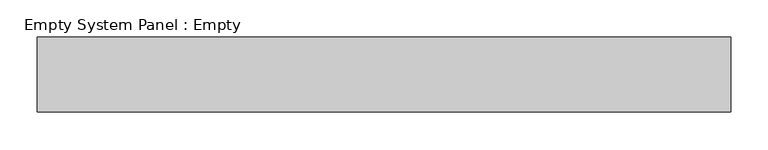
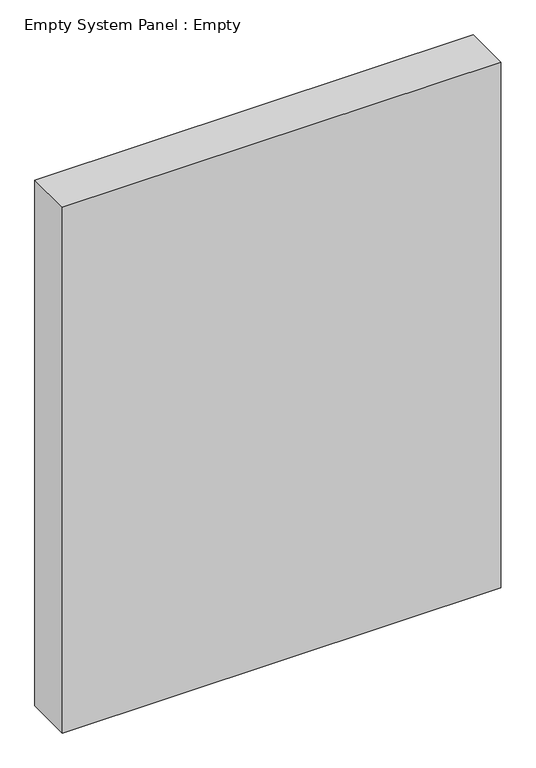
"""IFC4 building model written with IfcOpenShell, lengths in millimetres: plate geometry, Empty System Panel : Empty."""

from ifc_helpers import new_model, si_unit, origin, origin_with_axes, place, context, project, spatial, polyline, outline, extrude, source, transform, mapped, element, save


def empty_system_panel_empty_1ef4080b(model_context):
    return source(origin(), model_context, "Body", "SweptSolid", [
        extrude(outline(polyline([(462.5, -50.0), (-462.5, -50.0), (-462.5, 50.0), (462.5, 50.0), (462.5, -50.0)])), origin_with_axes(), (0.0, 0.0, 1.0), 1172.5),
    ])


if __name__ == "__main__":
    model = new_model("IFC4")
    model_context = context("Model", 3, world=origin())
    ifc_project = project(units=[si_unit("LENGTHUNIT", "METRE", prefix="MILLI")], contexts=[model_context])
    site = spatial("IfcSite", under=ifc_project)
    building = spatial("IfcBuilding", under=site)
    placement = place(None, origin())
    empty_system_panel_empty_shape = empty_system_panel_empty_1ef4080b(model_context)
    element("IfcPlate", 1, ObjectType="Empty System Panel : Empty", at=placement, inside=building, context=model_context, shape_type="MappedRepresentation", body=[
        mapped(empty_system_panel_empty_shape, transform((0.0, 0.0, 0.0), x_axis=(1.0, 0.0, 0.0), y_axis=(0.0, 1.0, 0.0), z_axis=(0.0, 0.0, 1.0))),
    ])
    save(model, "model.ifc")
